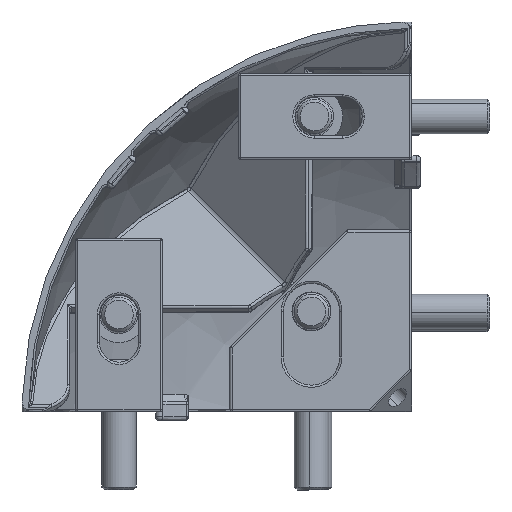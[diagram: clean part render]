
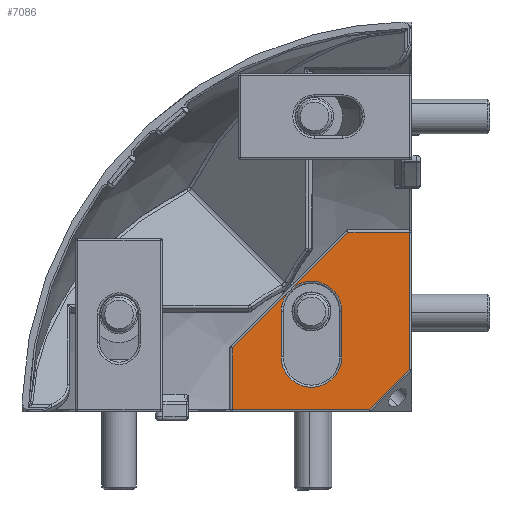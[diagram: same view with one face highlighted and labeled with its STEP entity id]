
A CAD part, left-side view. The second image highlights one B-rep face of the part: STEP entity #7086.
In plain terms, the highlighted planar face has unit normal (-1, 0, 0).
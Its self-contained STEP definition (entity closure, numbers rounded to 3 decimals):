
#595 = VERTEX_POINT ( 'NONE', #56232 ) ;
#1217 = CIRCLE ( 'NONE', #46245, 7. ) ;
#1406 = FACE_OUTER_BOUND ( 'NONE', #48975, .T. ) ;
#2075 = CARTESIAN_POINT ( 'NONE',  ( -37.215, -27.906, -40.141 ) ) ;
#2810 = ORIENTED_EDGE ( 'NONE', *, *, #45099, .T. ) ;
#5255 = DIRECTION ( 'NONE',  ( 1., 0., 0. ) ) ;
#5692 = CARTESIAN_POINT ( 'NONE',  ( -37.215, -27.772, -40.141 ) ) ;
#5923 = VERTEX_POINT ( 'NONE', #12110 ) ;
#5998 = VERTEX_POINT ( 'NONE', #16789 ) ;
#6208 = CARTESIAN_POINT ( 'NONE',  ( -37.215, 11.375, -33.495 ) ) ;
#7086 = ADVANCED_FACE ( 'NONE', ( #1406 ), #39588, .T. ) ;
#7796 = CARTESIAN_POINT ( 'NONE',  ( -37.215, 11.375, -33.495 ) ) ;
#8468 = CARTESIAN_POINT ( 'NONE',  ( -37.215, -7.575, -17.445 ) ) ;
#9378 = DIRECTION ( 'NONE',  ( 0., 0., 1. ) ) ;
#9547 = ORIENTED_EDGE ( 'NONE', *, *, #16190, .T. ) ;
#9605 = CARTESIAN_POINT ( 'NONE',  ( -37.215, -9.625, -12.495 ) ) ;
#9617 = VECTOR ( 'NONE', #11186, 1000. ) ;
#10314 = EDGE_CURVE ( 'NONE', #50076, #46626, #58804, .T. ) ;
#10402 = LINE ( 'NONE', #5692, #35929 ) ;
#11186 = DIRECTION ( 'NONE',  ( 0., 0., 1. ) ) ;
#12110 = CARTESIAN_POINT ( 'NONE',  ( -37.215, -37.272, 0.859 ) ) ;
#12452 = DIRECTION ( 'NONE',  ( 1., 0., 0. ) ) ;
#13419 = CARTESIAN_POINT ( 'NONE',  ( -37.215, -14.575, -17.445 ) ) ;
#13996 = VERTEX_POINT ( 'NONE', #8468 ) ;
#15242 = ORIENTED_EDGE ( 'NONE', *, *, #24001, .T. ) ;
#16187 = ORIENTED_EDGE ( 'NONE', *, *, #57869, .T. ) ;
#16190 = EDGE_CURVE ( 'NONE', #5998, #36725, #41175, .T. ) ;
#16483 = DIRECTION ( 'NONE',  ( 0., -1., 0. ) ) ;
#16789 = CARTESIAN_POINT ( 'NONE',  ( -37.215, -21.575, -17.445 ) ) ;
#16824 = CARTESIAN_POINT ( 'NONE',  ( -37.215, -14.575, -17.445 ) ) ;
#17392 = DIRECTION ( 'NONE',  ( 0., 0., -1. ) ) ;
#17453 = DIRECTION ( 'NONE',  ( 0., 0., -1. ) ) ;
#18845 = CIRCLE ( 'NONE', #53841, 7. ) ;
#20869 = CARTESIAN_POINT ( 'NONE',  ( -37.215, -37.272, -40.641 ) ) ;
#22117 = DIRECTION ( 'NONE',  ( 0., -1., 0. ) ) ;
#24001 = EDGE_CURVE ( 'NONE', #28812, #13996, #37795, .T. ) ;
#24177 = CARTESIAN_POINT ( 'NONE',  ( -37.215, 4.228, 0.859 ) ) ;
#26153 = CARTESIAN_POINT ( 'NONE',  ( -37.215, 4.228, -40.641 ) ) ;
#26177 = LINE ( 'NONE', #20869, #9617 ) ;
#28726 = ORIENTED_EDGE ( 'NONE', *, *, #37134, .T. ) ;
#28812 = VERTEX_POINT ( 'NONE', #32659 ) ;
#29206 = VERTEX_POINT ( 'NONE', #48485 ) ;
#29268 = VECTOR ( 'NONE', #44965, 1000. ) ;
#29365 = DIRECTION ( 'NONE',  ( 0., -0.707, 0.707 ) ) ;
#30850 = LINE ( 'NONE', #60307, #58610 ) ;
#31165 = AXIS2_PLACEMENT_3D ( 'NONE', #26153, #36960, #16483 ) ;
#31217 = CARTESIAN_POINT ( 'NONE',  ( -37.215, -21.575, -27.945 ) ) ;
#32659 = CARTESIAN_POINT ( 'NONE',  ( -37.215, -7.575, -27.945 ) ) ;
#33392 = ORIENTED_EDGE ( 'NONE', *, *, #10314, .T. ) ;
#34670 = DIRECTION ( 'NONE',  ( 0., 0.707, -0.707 ) ) ;
#35691 = AXIS2_PLACEMENT_3D ( 'NONE', #13419, #51579, #46882 ) ;
#35929 = VECTOR ( 'NONE', #46648, 1000. ) ;
#36725 = VERTEX_POINT ( 'NONE', #46940 ) ;
#36810 = EDGE_CURVE ( 'NONE', #55555, #29206, #53505, .T. ) ;
#36887 = VECTOR ( 'NONE', #34670, 1000. ) ;
#36960 = DIRECTION ( 'NONE',  ( -1., 0., 0. ) ) ;
#37082 = VECTOR ( 'NONE', #53026, 1000. ) ;
#37134 = EDGE_CURVE ( 'NONE', #13996, #50076, #54785, .T. ) ;
#37795 = LINE ( 'NONE', #56984, #49545 ) ;
#38922 = CARTESIAN_POINT ( 'NONE',  ( -37.215, 3.728, -25.848 ) ) ;
#39171 = EDGE_CURVE ( 'NONE', #5923, #57184, #47676, .T. ) ;
#39588 = PLANE ( 'NONE',  #31165 ) ;
#40603 = ORIENTED_EDGE ( 'NONE', *, *, #39171, .T. ) ;
#41115 = EDGE_CURVE ( 'NONE', #36725, #28812, #1217, .T. ) ;
#41175 = LINE ( 'NONE', #31217, #61605 ) ;
#41795 = LINE ( 'NONE', #7796, #36887 ) ;
#42835 = ORIENTED_EDGE ( 'NONE', *, *, #47823, .T. ) ;
#44965 = DIRECTION ( 'NONE',  ( 0., 0.707, -0.707 ) ) ;
#45099 = EDGE_CURVE ( 'NONE', #46626, #595, #30850, .T. ) ;
#46245 = AXIS2_PLACEMENT_3D ( 'NONE', #61971, #5255, #57256 ) ;
#46626 = VERTEX_POINT ( 'NONE', #38922 ) ;
#46648 = DIRECTION ( 'NONE',  ( 0., -1., 0. ) ) ;
#46882 = DIRECTION ( 'NONE',  ( 0., -1., 0. ) ) ;
#46940 = CARTESIAN_POINT ( 'NONE',  ( -37.215, -21.575, -27.945 ) ) ;
#47676 = LINE ( 'NONE', #24177, #37082 ) ;
#47823 = EDGE_CURVE ( 'NONE', #57184, #50076, #41795, .T. ) ;
#48168 = CARTESIAN_POINT ( 'NONE',  ( -37.215, -11.589, -56.458 ) ) ;
#48485 = CARTESIAN_POINT ( 'NONE',  ( -37.215, -37.272, -30.775 ) ) ;
#48680 = ORIENTED_EDGE ( 'NONE', *, *, #55249, .T. ) ;
#48849 = VECTOR ( 'NONE', #29365, 1000. ) ;
#48975 = EDGE_LOOP ( 'NONE', ( #15242, #28726, #33392, #2810, #16187, #50521, #53750, #40603, #42835, #48680, #9547, #57439 ) ) ;
#49545 = VECTOR ( 'NONE', #9378, 1000. ) ;
#50076 = VERTEX_POINT ( 'NONE', #9605 ) ;
#50521 = ORIENTED_EDGE ( 'NONE', *, *, #36810, .T. ) ;
#51579 = DIRECTION ( 'NONE',  ( 1., 0., 0. ) ) ;
#52775 = EDGE_CURVE ( 'NONE', #29206, #5923, #26177, .T. ) ;
#53026 = DIRECTION ( 'NONE',  ( 0., 1., 0. ) ) ;
#53343 = CARTESIAN_POINT ( 'NONE',  ( -37.215, -22.979, 0.859 ) ) ;
#53505 = LINE ( 'NONE', #48168, #48849 ) ;
#53750 = ORIENTED_EDGE ( 'NONE', *, *, #52775, .T. ) ;
#53841 = AXIS2_PLACEMENT_3D ( 'NONE', #16824, #12452, #22117 ) ;
#54785 = CIRCLE ( 'NONE', #35691, 7. ) ;
#55249 = EDGE_CURVE ( 'NONE', #50076, #5998, #18845, .T. ) ;
#55555 = VERTEX_POINT ( 'NONE', #2075 ) ;
#56232 = CARTESIAN_POINT ( 'NONE',  ( -37.215, 3.728, -40.141 ) ) ;
#56984 = CARTESIAN_POINT ( 'NONE',  ( -37.215, -7.575, -17.445 ) ) ;
#57184 = VERTEX_POINT ( 'NONE', #53343 ) ;
#57256 = DIRECTION ( 'NONE',  ( 0., -1., 0. ) ) ;
#57439 = ORIENTED_EDGE ( 'NONE', *, *, #41115, .T. ) ;
#57869 = EDGE_CURVE ( 'NONE', #595, #55555, #10402, .T. ) ;
#58610 = VECTOR ( 'NONE', #17392, 1000. ) ;
#58804 = LINE ( 'NONE', #6208, #29268 ) ;
#60307 = CARTESIAN_POINT ( 'NONE',  ( -37.215, 3.728, -40.641 ) ) ;
#61605 = VECTOR ( 'NONE', #17453, 1000. ) ;
#61971 = CARTESIAN_POINT ( 'NONE',  ( -37.215, -14.575, -27.945 ) ) ;
